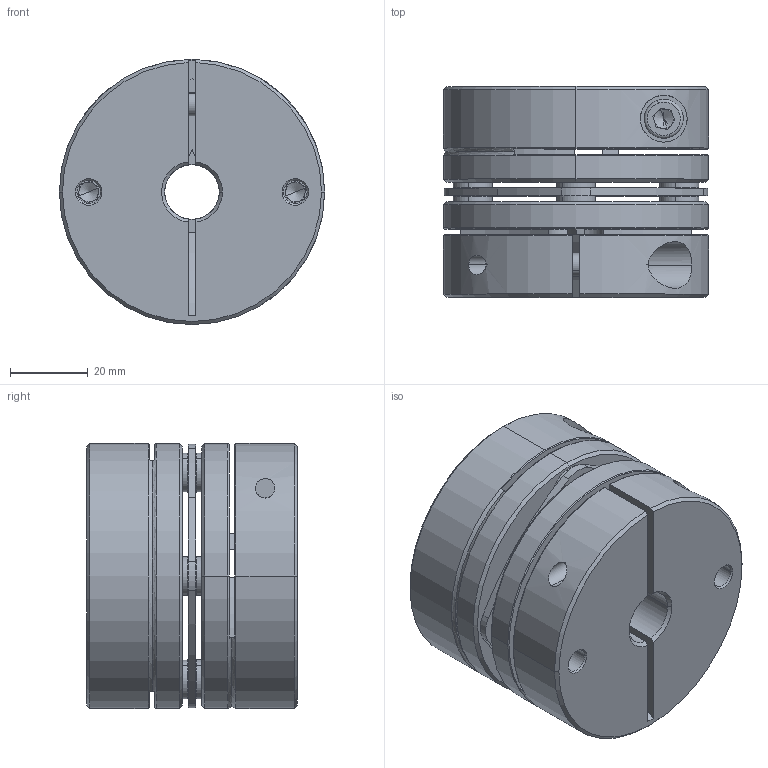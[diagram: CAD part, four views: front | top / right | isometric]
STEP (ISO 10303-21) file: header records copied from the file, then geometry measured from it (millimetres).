
FILE_DESCRIPTION (( 'STEP AP203' ), '1' );
FILE_NAME ('LD1-D68-14-14.STEP', '2021-10-26T07:41:16', ( '' ), ( '' ), 'SwSTEP 2.0', 'SolidWorks 2018', '' );
FILE_SCHEMA (( 'CONFIG_CONTROL_DESIGN' ));
Length unit declared in the file: millimetre
Products named in the file (2): 錨璃101^LD1-D68; LD1-D68-14-14
Assembly tree (1 placements, depth 2):
  LD1-D68-14-14
    錨璃101^LD1-D68
Bounding box: 68 x 54 x 68 mm (x, y, z)
Volume: 158248.8 mm3; surface area: 47449.2 mm2
Topology: 1 solids, 15 shells, 445 faces, 1079 edges, 662 vertices
Faces by surface type: cylinder 161, plane 140, cone 122, torus 22
Entity records: 13633 total; most frequent: CARTESIAN_POINT 2640, DIRECTION 2465, ORIENTED_EDGE 2126, EDGE_CURVE 1063, AXIS2_PLACEMENT_3D 999, VERTEX_POINT 662, CIRCLE 550, EDGE_LOOP 525
